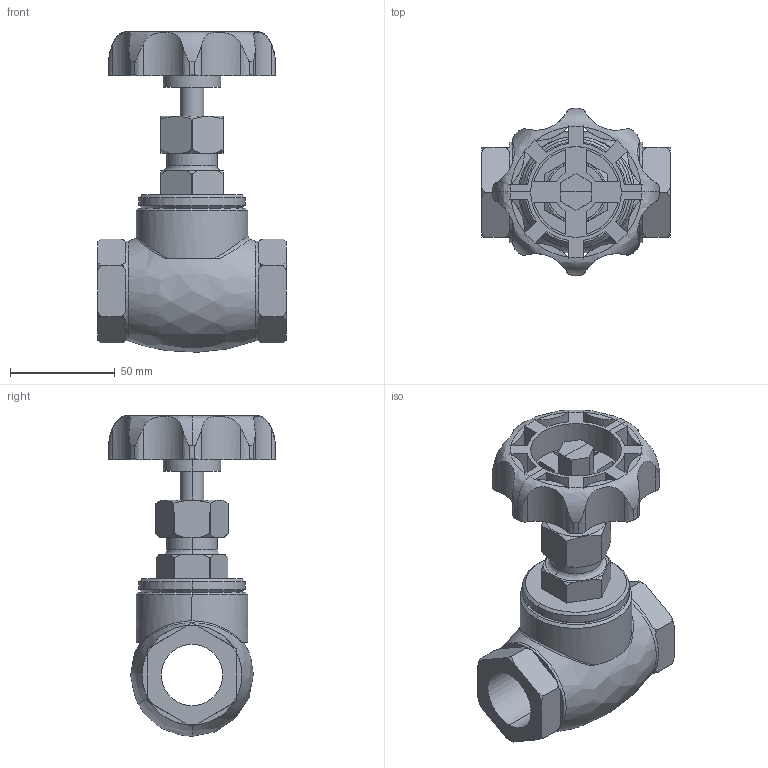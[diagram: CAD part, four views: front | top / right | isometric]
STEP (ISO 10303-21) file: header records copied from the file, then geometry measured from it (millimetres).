
FILE_DESCRIPTION( (''), '2;1');
FILE_NAME ('PC1027.9568.3D GLV-10 25A_15257.stp','2025-07-28T11:29:18',(''),(''),'spGate 19.8.4 (****-****-****-****)','','');
FILE_SCHEMA (('AUTOMOTIVE_DESIGN'));
Length unit declared in the file: millimetre
Bounding box: 90 x 79.99 x 153.3 mm (x, y, z)
Volume: 258708.9 mm3; surface area: 57462.3 mm2
Topology: 1 solids, 1 shells, 240 faces, 700 edges, 457 vertices
Faces by surface type: bspline 98, plane 82, cylinder 60
Entity records: 15961 total; most frequent: CARTESIAN_POINT 5159, ORIENTED_EDGE 1396, COLOUR_RGB 939, PRESENTATION_STYLE_ASSIGNMENT 939, STYLED_ITEM 939, DIRECTION 922, EDGE_CURVE 698, DRAUGHTING_PRE_DEFINED_CURVE_FONT 698
